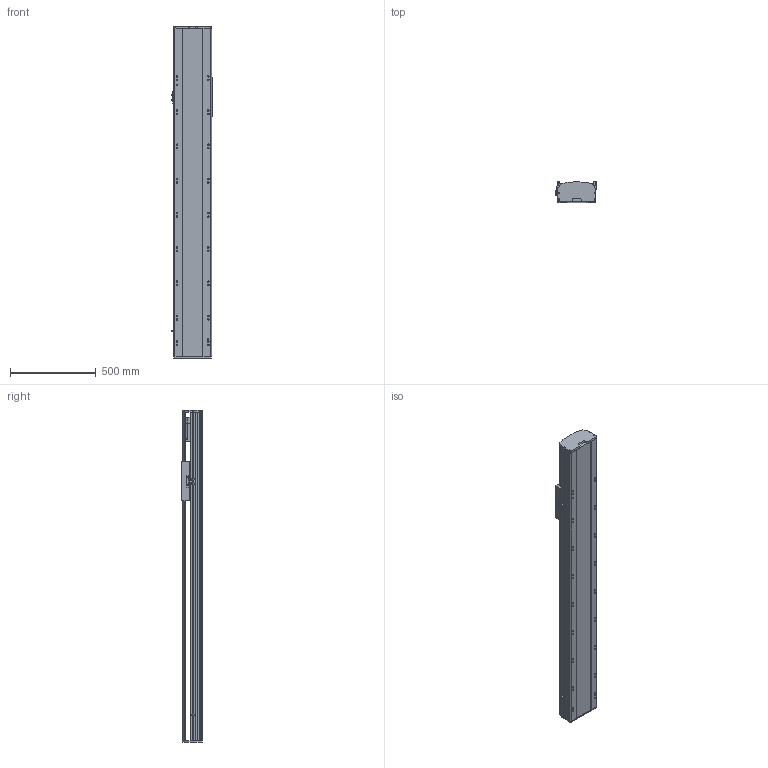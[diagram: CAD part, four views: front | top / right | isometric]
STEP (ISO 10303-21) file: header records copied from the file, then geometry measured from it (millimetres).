
FILE_DESCRIPTION (( 'STEP AP214' ), '1' );
FILE_NAME ('RTH22-XX-1350-B-M75-C4.STEP', '2025-10-24T10:35:08', ( 'Microsoft' ), ( 'Microsoft' ), 'SwSTEP 2.0', 'SolidWorks 2018', '' );
FILE_SCHEMA (( 'AUTOMOTIVE_DESIGN' ));
Length unit declared in the file: millimetre
Products named in the file (9): N_RTH22-B-008萇儂啣^RTH22-XX-XX-B-M75-C4; RTH22-XX-1350-B-M75-C4; N_RTH22-GY-013外置感应片^RTH22-XX-XX-B-M75-C4; N_RTH22-GY-001耜裔^RTH22-XX-XX-B-M75-C4; N_RTH22-B-011菁釱^RTH22-XX-XX-B-M75-C4; N_750W萇儂^RTH22-XX-XX-B-M75-C4; N_RTH22-E-004-SFS25賑釱^RTH22-XX-XX-B-M75-C4; N_OMRON EE-SX672 传感器^RTH22-XX-XX-B-M75-C4; N_RTH22-B-007奻裔^RTH22-XX-XX-B-M75-C4
Assembly tree (10 placements, depth 2):
  RTH22-XX-1350-B-M75-C4
    N_RTH22-B-011菁釱^RTH22-XX-XX-B-M75-C4
    N_RTH22-GY-001耜裔^RTH22-XX-XX-B-M75-C4
    N_750W萇儂^RTH22-XX-XX-B-M75-C4
    N_RTH22-B-008萇儂啣^RTH22-XX-XX-B-M75-C4
    N_RTH22-B-007奻裔^RTH22-XX-XX-B-M75-C4
    N_OMRON EE-SX672 传感器^RTH22-XX-XX-B-M75-C4  x3
    N_RTH22-GY-013外置感应片^RTH22-XX-XX-B-M75-C4
    N_RTH22-E-004-SFS25賑釱^RTH22-XX-XX-B-M75-C4
Bounding box: 238.5 x 122 x 1940 mm (x, y, z)
Volume: 25571764.4 mm3; surface area: 2618130 mm2
Topology: 10 solids, 10 shells, 1569 faces, 4300 edges, 2773 vertices
Faces by surface type: plane 758, cylinder 466, bspline 279, cone 66
Entity records: 39407 total; most frequent: CARTESIAN_POINT 12141, ORIENTED_EDGE 5560, DIRECTION 5258, EDGE_CURVE 2780, VERTEX_POINT 1809, AXIS2_PLACEMENT_3D 1786, LINE 1686, VECTOR 1686
